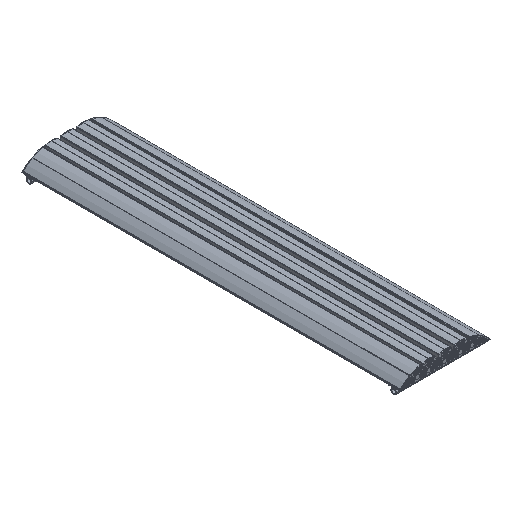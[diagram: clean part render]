
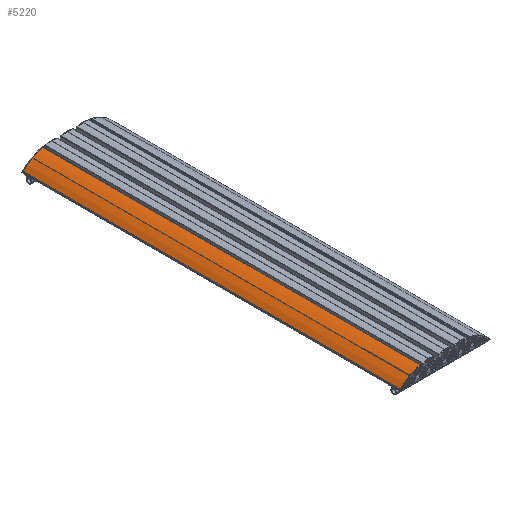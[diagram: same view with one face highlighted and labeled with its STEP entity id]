
A CAD part, isometric view. The second image highlights one B-rep face of the part: STEP entity #5220.
In plain terms, the highlighted cylindrical face has radius 200 mm (diameter 400 mm), a partial arc.
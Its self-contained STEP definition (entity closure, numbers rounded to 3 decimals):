
#298 = VERTEX_POINT ( 'NONE', #12515 ) ;
#299 = VERTEX_POINT ( 'NONE', #12516 ) ;
#300 = VERTEX_POINT ( 'NONE', #12517 ) ;
#301 = VERTEX_POINT ( 'NONE', #12518 ) ;
#3551 = EDGE_CURVE ( 'NONE', #299, #298, #18916, .T. ) ;
#3553 = EDGE_CURVE ( 'NONE', #298, #300, #18927, .T. ) ;
#3554 = EDGE_CURVE ( 'NONE', #301, #300, #18925, .T. ) ;
#3555 = EDGE_CURVE ( 'NONE', #299, #301, #18932, .T. ) ;
#5220 = ADVANCED_FACE ( 'NONE', ( #24999 ), #25000, .T. ) ;
#5669 = ORIENTED_EDGE ( 'NONE', *, *, #3553, .T. ) ;
#5670 = ORIENTED_EDGE ( 'NONE', *, *, #3554, .F. ) ;
#5671 = ORIENTED_EDGE ( 'NONE', *, *, #3555, .F. ) ;
#5672 = ORIENTED_EDGE ( 'NONE', *, *, #3551, .T. ) ;
#8394 = EDGE_LOOP ( 'NONE', ( #5669, #5670, #5671, #5672 ) ) ;
#12252 = AXIS2_PLACEMENT_3D ( 'NONE', #20391, #20392, #20393 ) ;
#12253 = AXIS2_PLACEMENT_3D ( 'NONE', #20396, #20397, #20398 ) ;
#12515 = CARTESIAN_POINT ( 'NONE',  ( 82.805, 0., -12.27 ) ) ;
#12516 = CARTESIAN_POINT ( 'NONE',  ( 82.805, -1795., -12.27 ) ) ;
#12517 = CARTESIAN_POINT ( 'NONE',  ( -13.398, 0., 43.426 ) ) ;
#12518 = CARTESIAN_POINT ( 'NONE',  ( -13.398, -1795., 43.426 ) ) ;
#18916 = LINE ( 'NONE', #20386, #18920 ) ;
#18920 = VECTOR ( 'NONE', #20387, 1000. ) ;
#18925 = LINE ( 'NONE', #20394, #18928 ) ;
#18927 = CIRCLE ( 'NONE', #12252, 200. ) ;
#18928 = VECTOR ( 'NONE', #20395, 1000. ) ;
#18932 = CIRCLE ( 'NONE', #12253, 200. ) ;
#20386 = CARTESIAN_POINT ( 'NONE',  ( 82.805, -1795., -12.27 ) ) ;
#20387 = DIRECTION ( 'NONE',  ( 0., 1., 0. ) ) ;
#20391 = CARTESIAN_POINT ( 'NONE',  ( -61.557, 0., -150.689 ) ) ;
#20392 = DIRECTION ( 'NONE',  ( 0., -1., 0. ) ) ;
#20393 = DIRECTION ( 'NONE',  ( 0., 0., 1. ) ) ;
#20394 = CARTESIAN_POINT ( 'NONE',  ( -13.398, -1795., 43.426 ) ) ;
#20395 = DIRECTION ( 'NONE',  ( 0., 1., 0. ) ) ;
#20396 = CARTESIAN_POINT ( 'NONE',  ( -61.557, -1795., -150.689 ) ) ;
#20397 = DIRECTION ( 'NONE',  ( 0., -1., 0. ) ) ;
#20398 = DIRECTION ( 'NONE',  ( 0., 0., 1. ) ) ;
#22060 = CARTESIAN_POINT ( 'NONE',  ( -61.557, -1795., -150.689 ) ) ;
#22061 = DIRECTION ( 'NONE',  ( 0., 1., 0. ) ) ;
#22063 = DIRECTION ( 'NONE',  ( 0., 0., 1. ) ) ;
#22758 = AXIS2_PLACEMENT_3D ( 'NONE', #22060, #22061, #22063 ) ;
#24999 = FACE_OUTER_BOUND ( 'NONE', #8394, .T. ) ;
#25000 = CYLINDRICAL_SURFACE ( 'NONE', #22758, 200. ) ;
